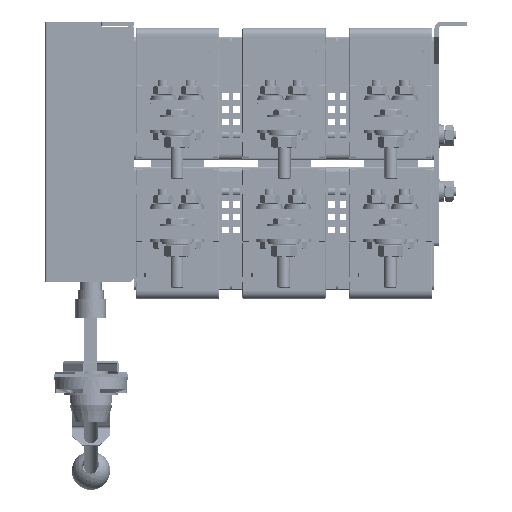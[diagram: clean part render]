
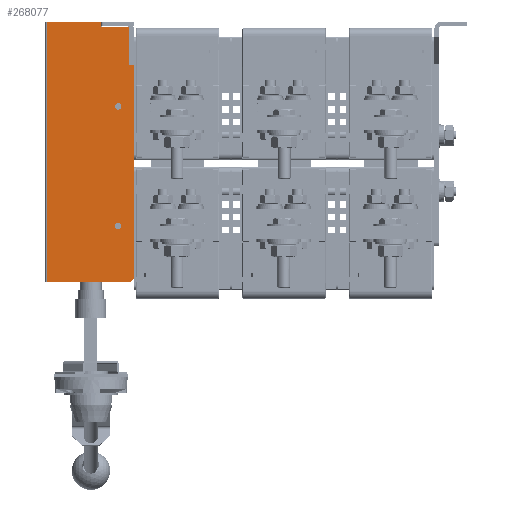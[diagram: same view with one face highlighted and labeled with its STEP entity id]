
A CAD part, left-side view. The second image highlights one B-rep face of the part: STEP entity #268077.
In plain terms, the highlighted planar face has unit normal (-1, 0, 0).
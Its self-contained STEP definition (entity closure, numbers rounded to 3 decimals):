
#7127 = CIRCLE ( 'NONE', #413409, 3. ) ;
#8788 = ORIENTED_EDGE ( 'NONE', *, *, #326708, .F. ) ;
#11852 = LINE ( 'NONE', #39976, #388125 ) ;
#25193 = VERTEX_POINT ( 'NONE', #347736 ) ;
#28716 = CARTESIAN_POINT ( 'NONE',  ( -94.2, 80.92, -240.1 ) ) ;
#29611 = EDGE_CURVE ( 'NONE', #202310, #148034, #350345, .T. ) ;
#30273 = DIRECTION ( 'NONE',  ( 0., 1., 0. ) ) ;
#30470 = ORIENTED_EDGE ( 'NONE', *, *, #129096, .F. ) ;
#34036 = CARTESIAN_POINT ( 'NONE',  ( -94.2, 5.42, -234.1 ) ) ;
#39976 = CARTESIAN_POINT ( 'NONE',  ( -94.2, 4.42, -1. ) ) ;
#44295 = ORIENTED_EDGE ( 'NONE', *, *, #306695, .F. ) ;
#53147 = CARTESIAN_POINT ( 'NONE',  ( -94.2, 4.42, -36. ) ) ;
#53363 = LINE ( 'NONE', #233943, #235768 ) ;
#57446 = DIRECTION ( 'NONE',  ( 0., -1., 0. ) ) ;
#57518 = VECTOR ( 'NONE', #360434, 1000. ) ;
#70396 = DIRECTION ( 'NONE',  ( 0., 0., 1. ) ) ;
#70585 = DIRECTION ( 'NONE',  ( 0., 0., -1. ) ) ;
#78402 = EDGE_CURVE ( 'NONE', #390197, #327828, #392266, .T. ) ;
#83062 = CARTESIAN_POINT ( 'NONE',  ( -94.2, 14.42, -187.1 ) ) ;
#83156 = CARTESIAN_POINT ( 'NONE',  ( -94.2, 5.42, -240.1 ) ) ;
#88917 = DIRECTION ( 'NONE',  ( 0., 0., -1. ) ) ;
#90804 = EDGE_CURVE ( 'NONE', #283570, #262782, #303440, .T. ) ;
#103523 = ORIENTED_EDGE ( 'NONE', *, *, #235539, .F. ) ;
#105585 = CARTESIAN_POINT ( 'NONE',  ( -94.2, 80.92, 4. ) ) ;
#108000 = ORIENTED_EDGE ( 'NONE', *, *, #78402, .F. ) ;
#117964 = VERTEX_POINT ( 'NONE', #199091 ) ;
#119746 = DIRECTION ( 'NONE',  ( 0., -1., 0. ) ) ;
#119822 = AXIS2_PLACEMENT_3D ( 'NONE', #208622, #463804, #245347 ) ;
#121484 = LINE ( 'NONE', #312307, #440714 ) ;
#123293 = CARTESIAN_POINT ( 'NONE',  ( -94.2, 80.92, 4. ) ) ;
#128700 = ORIENTED_EDGE ( 'NONE', *, *, #288773, .F. ) ;
#129096 = EDGE_CURVE ( 'NONE', #327828, #25193, #445387, .T. ) ;
#130845 = ORIENTED_EDGE ( 'NONE', *, *, #195504, .F. ) ;
#137237 = DIRECTION ( 'NONE',  ( -1., 0., 0. ) ) ;
#137677 = AXIS2_PLACEMENT_3D ( 'NONE', #355394, #137237, #392109 ) ;
#141090 = CIRCLE ( 'NONE', #137677, 3. ) ;
#142797 = FACE_BOUND ( 'NONE', #245283, .T. ) ;
#146511 = CARTESIAN_POINT ( 'NONE',  ( -94.2, 80.92, -240.1 ) ) ;
#148034 = VERTEX_POINT ( 'NONE', #184393 ) ;
#170495 = FACE_BOUND ( 'NONE', #311590, .T. ) ;
#175424 = VERTEX_POINT ( 'NONE', #53147 ) ;
#184393 = CARTESIAN_POINT ( 'NONE',  ( -94.2, 17.42, -75.1 ) ) ;
#185717 = CARTESIAN_POINT ( 'NONE',  ( -94.2, -0.58, -36. ) ) ;
#195504 = EDGE_CURVE ( 'NONE', #25193, #296381, #53363, .T. ) ;
#199091 = CARTESIAN_POINT ( 'NONE',  ( -94.2, 11.42, -187.1 ) ) ;
#200715 = CARTESIAN_POINT ( 'NONE',  ( -94.2, 14.42, -187.1 ) ) ;
#202310 = VERTEX_POINT ( 'NONE', #205332 ) ;
#202795 = CARTESIAN_POINT ( 'NONE',  ( -94.2, 80.92, -240.1 ) ) ;
#205332 = CARTESIAN_POINT ( 'NONE',  ( -94.2, 11.42, -75.1 ) ) ;
#206605 = CARTESIAN_POINT ( 'NONE',  ( -94.2, 30.92, -1. ) ) ;
#208057 = LINE ( 'NONE', #146511, #402041 ) ;
#208622 = CARTESIAN_POINT ( 'NONE',  ( -94.2, 14.42, -75.1 ) ) ;
#216427 = AXIS2_PLACEMENT_3D ( 'NONE', #34036, #288844, #70585 ) ;
#222257 = DIRECTION ( 'NONE',  ( 0., 0., 1. ) ) ;
#222524 = DIRECTION ( 'NONE',  ( 0., 1., 0. ) ) ;
#233943 = CARTESIAN_POINT ( 'NONE',  ( -94.2, 30.92, 4. ) ) ;
#235539 = EDGE_CURVE ( 'NONE', #296381, #431919, #121484, .T. ) ;
#235768 = VECTOR ( 'NONE', #88917, 1000. ) ;
#237515 = DIRECTION ( 'NONE',  ( 0., 1., 0. ) ) ;
#245215 = AXIS2_PLACEMENT_3D ( 'NONE', #28716, #248483, #30273 ) ;
#245283 = EDGE_LOOP ( 'NONE', ( #299669, #44295 ) ) ;
#245347 = DIRECTION ( 'NONE',  ( 0., -1., 0. ) ) ;
#248343 = CARTESIAN_POINT ( 'NONE',  ( -94.2, 4.42, -1. ) ) ;
#248483 = DIRECTION ( 'NONE',  ( 1., 0., 0. ) ) ;
#251104 = ORIENTED_EDGE ( 'NONE', *, *, #267892, .F. ) ;
#254345 = AXIS2_PLACEMENT_3D ( 'NONE', #200715, #455918, #237515 ) ;
#260713 = EDGE_CURVE ( 'NONE', #262782, #175424, #334501, .T. ) ;
#262782 = VERTEX_POINT ( 'NONE', #310776 ) ;
#267892 = EDGE_CURVE ( 'NONE', #353755, #117964, #472945, .T. ) ;
#268077 = ADVANCED_FACE ( 'NONE', ( #336587, #170495, #142797 ), #393553, .F. ) ;
#283570 = VERTEX_POINT ( 'NONE', #363055 ) ;
#288638 = CARTESIAN_POINT ( 'NONE',  ( -94.2, 80.92, -240.1 ) ) ;
#288773 = EDGE_CURVE ( 'NONE', #117964, #353755, #7127, .T. ) ;
#288844 = DIRECTION ( 'NONE',  ( -1., 0., 0. ) ) ;
#289191 = ORIENTED_EDGE ( 'NONE', *, *, #363004, .T. ) ;
#296132 = ORIENTED_EDGE ( 'NONE', *, *, #343602, .T. ) ;
#296381 = VERTEX_POINT ( 'NONE', #206605 ) ;
#299669 = ORIENTED_EDGE ( 'NONE', *, *, #29611, .F. ) ;
#303440 = LINE ( 'NONE', #440683, #400448 ) ;
#306695 = EDGE_CURVE ( 'NONE', #148034, #202310, #141090, .T. ) ;
#310776 = CARTESIAN_POINT ( 'NONE',  ( -94.2, -0.58, -36. ) ) ;
#311286 = ORIENTED_EDGE ( 'NONE', *, *, #90804, .T. ) ;
#311590 = EDGE_LOOP ( 'NONE', ( #128700, #251104 ) ) ;
#312307 = CARTESIAN_POINT ( 'NONE',  ( -94.2, 30.92, -1. ) ) ;
#320383 = VERTEX_POINT ( 'NONE', #83156 ) ;
#323114 = VECTOR ( 'NONE', #222524, 1000. ) ;
#326708 = EDGE_CURVE ( 'NONE', #431919, #175424, #11852, .T. ) ;
#327828 = VERTEX_POINT ( 'NONE', #123293 ) ;
#328106 = DIRECTION ( 'NONE',  ( 0., -1., 0. ) ) ;
#331497 = DIRECTION ( 'NONE',  ( 0., 0., -1. ) ) ;
#334501 = LINE ( 'NONE', #185717, #323114 ) ;
#336587 = FACE_OUTER_BOUND ( 'NONE', #375416, .T. ) ;
#337946 = DIRECTION ( 'NONE',  ( -1., 0., 0. ) ) ;
#343602 = EDGE_CURVE ( 'NONE', #320383, #283570, #351781, .T. ) ;
#347736 = CARTESIAN_POINT ( 'NONE',  ( -94.2, 30.92, 4. ) ) ;
#350345 = CIRCLE ( 'NONE', #119822, 3. ) ;
#351781 = CIRCLE ( 'NONE', #216427, 6. ) ;
#353755 = VERTEX_POINT ( 'NONE', #445006 ) ;
#355394 = CARTESIAN_POINT ( 'NONE',  ( -94.2, 14.42, -75.1 ) ) ;
#357907 = VECTOR ( 'NONE', #70396, 1000. ) ;
#360434 = DIRECTION ( 'NONE',  ( 0., -1., 0. ) ) ;
#363004 = EDGE_CURVE ( 'NONE', #390197, #320383, #208057, .T. ) ;
#363055 = CARTESIAN_POINT ( 'NONE',  ( -94.2, -0.58, -234.1 ) ) ;
#375416 = EDGE_LOOP ( 'NONE', ( #311286, #441046, #8788, #103523, #130845, #30470, #108000, #289191, #296132 ) ) ;
#388125 = VECTOR ( 'NONE', #331497, 1000. ) ;
#390197 = VERTEX_POINT ( 'NONE', #202795 ) ;
#392109 = DIRECTION ( 'NONE',  ( 0., 1., 0. ) ) ;
#392266 = LINE ( 'NONE', #288638, #357907 ) ;
#393553 = PLANE ( 'NONE',  #245215 ) ;
#400448 = VECTOR ( 'NONE', #222257, 1000. ) ;
#402041 = VECTOR ( 'NONE', #328106, 1000. ) ;
#413409 = AXIS2_PLACEMENT_3D ( 'NONE', #83062, #337946, #119746 ) ;
#431919 = VERTEX_POINT ( 'NONE', #248343 ) ;
#440683 = CARTESIAN_POINT ( 'NONE',  ( -94.2, -0.58, -234.1 ) ) ;
#440714 = VECTOR ( 'NONE', #57446, 1000. ) ;
#441046 = ORIENTED_EDGE ( 'NONE', *, *, #260713, .T. ) ;
#445006 = CARTESIAN_POINT ( 'NONE',  ( -94.2, 17.42, -187.1 ) ) ;
#445387 = LINE ( 'NONE', #105585, #57518 ) ;
#455918 = DIRECTION ( 'NONE',  ( -1., 0., 0. ) ) ;
#463804 = DIRECTION ( 'NONE',  ( -1., 0., 0. ) ) ;
#472945 = CIRCLE ( 'NONE', #254345, 3. ) ;
